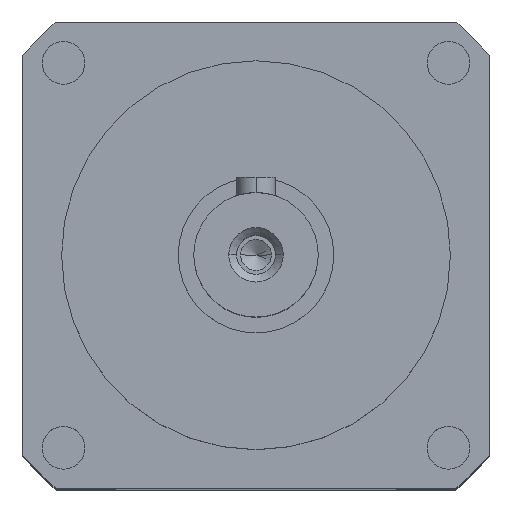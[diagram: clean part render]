
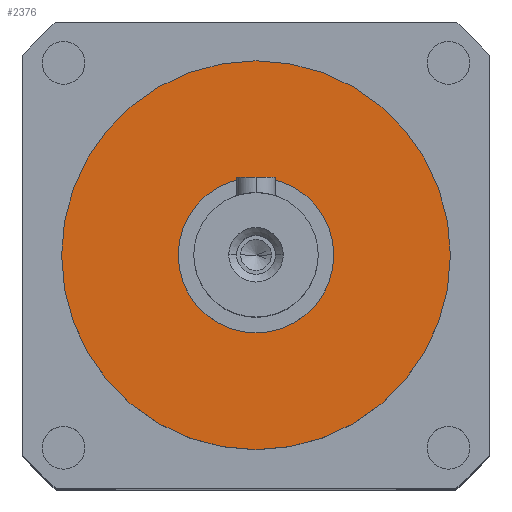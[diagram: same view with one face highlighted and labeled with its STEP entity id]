
A CAD part, top view. The second image highlights one B-rep face of the part: STEP entity #2376.
In plain terms, the highlighted planar face has unit normal (0, 0, 1).
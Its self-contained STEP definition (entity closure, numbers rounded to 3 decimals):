
#12 = EDGE_CURVE ( 'NONE', #2230, #2979, #2214, .T. ) ;
#47 = EDGE_CURVE ( 'NONE', #3958, #1675, #722, .T. ) ;
#212 = AXIS2_PLACEMENT_3D ( 'NONE', #1624, #3792, #1935 ) ;
#285 = ORIENTED_EDGE ( 'NONE', *, *, #12, .T. ) ;
#494 = CARTESIAN_POINT ( 'NONE',  ( 0., 0., 7. ) ) ;
#722 = CIRCLE ( 'NONE', #212, 25. ) ;
#811 = DIRECTION ( 'NONE',  ( 0., 0., -1. ) ) ;
#843 = CARTESIAN_POINT ( 'NONE',  ( 0., 0., 7. ) ) ;
#933 = DIRECTION ( 'NONE',  ( 0., 0., -1. ) ) ;
#1157 = DIRECTION ( 'NONE',  ( -1., 0., 0. ) ) ;
#1361 = EDGE_LOOP ( 'NONE', ( #285, #3360 ) ) ;
#1475 = CARTESIAN_POINT ( 'NONE',  ( 25., 0., 7. ) ) ;
#1607 = DIRECTION ( 'NONE',  ( -1., 0., 0. ) ) ;
#1624 = CARTESIAN_POINT ( 'NONE',  ( 0., 0., 7. ) ) ;
#1630 = ORIENTED_EDGE ( 'NONE', *, *, #2443, .F. ) ;
#1675 = VERTEX_POINT ( 'NONE', #1475 ) ;
#1723 = PLANE ( 'NONE',  #2374 ) ;
#1742 = CIRCLE ( 'NONE', #3944, 10. ) ;
#1916 = CARTESIAN_POINT ( 'NONE',  ( 0., 0., 7. ) ) ;
#1935 = DIRECTION ( 'NONE',  ( -1., 0., 0. ) ) ;
#2214 = CIRCLE ( 'NONE', #3803, 10. ) ;
#2230 = VERTEX_POINT ( 'NONE', #2917 ) ;
#2374 = AXIS2_PLACEMENT_3D ( 'NONE', #494, #811, #2960 ) ;
#2376 = ADVANCED_FACE ( 'NONE', ( #3399, #3305 ), #1723, .F. ) ;
#2443 = EDGE_CURVE ( 'NONE', #1675, #3958, #2955, .T. ) ;
#2727 = EDGE_LOOP ( 'NONE', ( #3092, #1630 ) ) ;
#2769 = CARTESIAN_POINT ( 'NONE',  ( 0., 0., 7. ) ) ;
#2917 = CARTESIAN_POINT ( 'NONE',  ( -10., 0., 7. ) ) ;
#2955 = CIRCLE ( 'NONE', #3400, 25. ) ;
#2960 = DIRECTION ( 'NONE',  ( -1., 0., 0. ) ) ;
#2979 = VERTEX_POINT ( 'NONE', #3417 ) ;
#2996 = DIRECTION ( 'NONE',  ( 0., 0., -1. ) ) ;
#3074 = DIRECTION ( 'NONE',  ( -1., 0., 0. ) ) ;
#3092 = ORIENTED_EDGE ( 'NONE', *, *, #47, .F. ) ;
#3305 = FACE_OUTER_BOUND ( 'NONE', #2727, .T. ) ;
#3360 = ORIENTED_EDGE ( 'NONE', *, *, #3557, .T. ) ;
#3399 = FACE_BOUND ( 'NONE', #1361, .T. ) ;
#3400 = AXIS2_PLACEMENT_3D ( 'NONE', #843, #2996, #1157 ) ;
#3417 = CARTESIAN_POINT ( 'NONE',  ( 10., 0., 7. ) ) ;
#3462 = DIRECTION ( 'NONE',  ( 0., 0., -1. ) ) ;
#3557 = EDGE_CURVE ( 'NONE', #2979, #2230, #1742, .T. ) ;
#3792 = DIRECTION ( 'NONE',  ( 0., 0., -1. ) ) ;
#3803 = AXIS2_PLACEMENT_3D ( 'NONE', #1916, #3462, #1607 ) ;
#3823 = CARTESIAN_POINT ( 'NONE',  ( -25., 0., 7. ) ) ;
#3944 = AXIS2_PLACEMENT_3D ( 'NONE', #2769, #933, #3074 ) ;
#3958 = VERTEX_POINT ( 'NONE', #3823 ) ;
